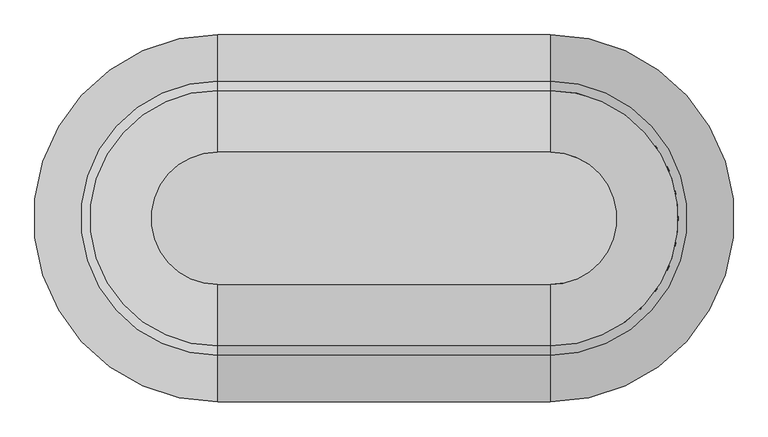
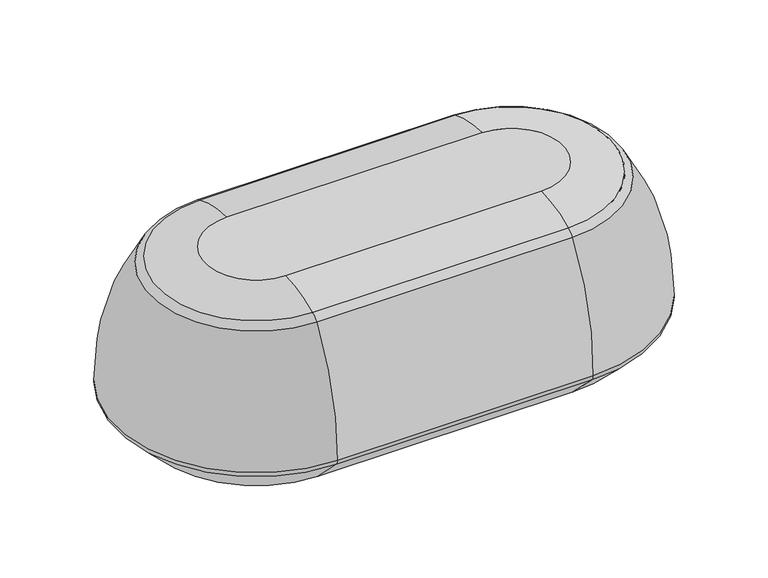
"""IFC4 building model written with IfcOpenShell, lengths in millimetres: furniture geometry, Pouf_Bensen_IlePouf_ILE005 : Pouf_Bensen_IlePouf_ILE005."""

from ifc_helpers import new_model, si_unit, point, frame, origin, place, context, project, spatial, polyline, circle_curve, ellipse_curve, trimmed, source, transform, mapped, element, save
from ifc_brep_helpers import plane_surface, cylinder_surface, revolved_surface, advanced_brep


def furniture_154e36b8(model_context):
    return source(origin(), model_context, "Body", "AdvancedBrep", [
        advanced_brep(
        [(-299.4891283, -119.2740078, 420.0), (299.4891283, -119.2740078, 420.0), (299.4891283, 119.2740078, 420.0), (-299.4891283, 119.2740078, 420.0), (299.4891283, -249.1399046, 0.0), (-299.4891283, -249.1399046, 0.0), (-299.4891283, 249.1399046, 0.0), (299.4891283, 249.1399046, 0.0), (-299.4891283, -324.6759513, 75.5360466), (299.4891283, -324.6759513, 75.5360466), (299.4891283, -330.5227805, 89.0138906), (-299.4891283, -330.5227805, 89.0138906), (299.4891283, -246.8894749, 381.8574548), (-299.4891283, -246.8894749, 381.8574548), (299.4891283, -230.1522762, 396.0506005), (-299.4891283, -230.1522762, 396.0506005), (299.4891283, 324.6759513, 75.5360466), (-299.4891283, 324.6759513, 75.5360466), (-299.4891283, 330.5227805, 89.0138906), (299.4891283, 330.5227805, 89.0138906), (-299.4891283, 246.8894749, 381.8574548), (299.4891283, 246.8894749, 381.8574548), (-299.4891283, 230.1522762, 396.0506005), (299.4891283, 230.1522762, 396.0506005)],
        [
            (0, 1),
            (1, 2, circle_curve(frame((299.4891283, 0.0, 420.0), z_axis=(0.0, 0.0, 1.0), x_axis=(0.0, -1.0, 0.0)), 119.2740078)),
            (2, 3),
            (3, 0, circle_curve(frame((-299.4891283, 0.0, 420.0), z_axis=(0.0, 0.0, 1.0), x_axis=(0.0, 1.0, 0.0)), 119.2740078)),
            (4, 5),
            (5, 6, circle_curve(frame((-299.4891283, 0.0, 0.0), z_axis=(0.0, 0.0, -1.0), x_axis=(0.0, 1.0, 0.0)), 249.1399046)),
            (6, 7),
            (7, 4, circle_curve(frame((299.4891283, 0.0, 0.0), z_axis=(0.0, 0.0, -1.0), x_axis=(0.0, -1.0, 0.0)), 249.1399046)),
            (8, 5),
            (4, 9),
            (9, 8),
            (9, 10, circle_curve(frame((299.4891283, -310.5338157, 89.6781823), z_axis=(-1.0, 0.0, 0.0), x_axis=(0.0, 1.0, 0.0)), 20.0)),
            (10, 11),
            (11, 8, circle_curve(frame((-299.4891283, -310.5338157, 89.6781823), z_axis=(1.0, 0.0, 0.0), x_axis=(0.0, 1.0, 0.0)), 20.0)),
            (10, 12, circle_curve(frame((299.4891283, 166.1919068, 105.5211689), z_axis=(-1.0, 0.0, 0.0), x_axis=(0.0, 1.0, 0.0)), 496.9889042)),
            (12, 13),
            (13, 11, circle_curve(frame((-299.4891283, 166.1919068, 105.5211689), z_axis=(1.0, 0.0, 0.0), x_axis=(0.0, 1.0, 0.0)), 496.9889042)),
            (12, 14, circle_curve(frame((299.4891283, -213.6427462, 359.6166134), z_axis=(-1.0, 0.0, 0.0), x_axis=(0.0, 1.0, 0.0)), 40.0)),
            (14, 15),
            (15, 13, circle_curve(frame((-299.4891283, -213.6427462, 359.6166134), z_axis=(1.0, 0.0, 0.0), x_axis=(0.0, 1.0, 0.0)), 40.0)),
            (14, 1, circle_curve(frame((299.4891283, -119.2740078, 151.3593575), z_axis=(-1.0, 0.0, 0.0), x_axis=(0.0, 1.0, 0.0)), 268.6406425)),
            (0, 15, circle_curve(frame((-299.4891283, -119.2740078, 151.3593575), z_axis=(1.0, 0.0, 0.0), x_axis=(0.0, 1.0, 0.0)), 268.6406425)),
            (16, 7),
            (6, 17),
            (17, 16),
            (17, 18, circle_curve(frame((-299.4891283, 310.5338157, 89.6781823), z_axis=(1.0, 0.0, 0.0), x_axis=(0.0, -1.0, 0.0)), 20.0)),
            (18, 19),
            (19, 16, circle_curve(frame((299.4891283, 310.5338157, 89.6781823), z_axis=(-1.0, 0.0, 0.0), x_axis=(0.0, -1.0, 0.0)), 20.0)),
            (18, 20, circle_curve(frame((-299.4891283, -166.1919068, 105.5211689), z_axis=(1.0, 0.0, 0.0), x_axis=(0.0, -1.0, 0.0)), 496.9889042)),
            (20, 21),
            (21, 19, circle_curve(frame((299.4891283, -166.1919068, 105.5211689), z_axis=(-1.0, 0.0, 0.0), x_axis=(0.0, -1.0, 0.0)), 496.9889042)),
            (20, 22, circle_curve(frame((-299.4891283, 213.6427462, 359.6166134), z_axis=(1.0, 0.0, 0.0), x_axis=(0.0, -1.0, 0.0)), 40.0)),
            (22, 23),
            (23, 21, circle_curve(frame((299.4891283, 213.6427462, 359.6166134), z_axis=(-1.0, 0.0, 0.0), x_axis=(0.0, -1.0, 0.0)), 40.0)),
            (22, 3, circle_curve(frame((-299.4891283, 119.2740078, 151.3593575), z_axis=(1.0, 0.0, 0.0), x_axis=(0.0, -1.0, 0.0)), 268.6406425)),
            (2, 23, circle_curve(frame((299.4891283, 119.2740078, 151.3593575), z_axis=(-1.0, 0.0, 0.0), x_axis=(0.0, -1.0, 0.0)), 268.6406425)),
            (8, 17, circle_curve(frame((-299.4891283, 0.0, 75.5360466), z_axis=(0.0, 0.0, -1.0), x_axis=(0.0, 1.0, 0.0)), 324.6759513)),
            (11, 18, circle_curve(frame((-299.4891283, 0.0, 89.0138906), z_axis=(0.0, 0.0, -1.0), x_axis=(0.0, 1.0, 0.0)), 330.5227805)),
            (13, 20, circle_curve(frame((-299.4891283, 0.0, 381.8574548), z_axis=(0.0, 0.0, -1.0), x_axis=(0.0, 1.0, 0.0)), 246.8894749)),
            (15, 22, circle_curve(frame((-299.4891283, 0.0, 396.0506005), z_axis=(0.0, 0.0, -1.0), x_axis=(0.0, 1.0, 0.0)), 230.1522762)),
            (16, 9, circle_curve(frame((299.4891283, 0.0, 75.5360466), z_axis=(0.0, 0.0, -1.0), x_axis=(0.0, -1.0, 0.0)), 324.6759513)),
            (19, 10, circle_curve(frame((299.4891283, 0.0, 89.0138906), z_axis=(0.0, 0.0, -1.0), x_axis=(0.0, -1.0, 0.0)), 330.5227805)),
            (21, 12, circle_curve(frame((299.4891283, 0.0, 381.8574548), z_axis=(0.0, 0.0, -1.0), x_axis=(0.0, -1.0, 0.0)), 246.8894749)),
            (23, 14, circle_curve(frame((299.4891283, 0.0, 396.0506005), z_axis=(0.0, 0.0, -1.0), x_axis=(0.0, -1.0, 0.0)), 230.1522762)),
        ],
        [
            plane_surface(frame((-499.4891283, 119.2740078, 420.0), z_axis=(0.0, 0.0, 1.0), x_axis=(-1.0, 0.0, 0.0))),
            plane_surface(frame((-499.4891283, 119.2740078, 0.0), z_axis=(0.0, 0.0, -1.0), x_axis=(1.0, 0.0, 0.0))),
            plane_surface(frame((-299.4891283, -249.1399046, 0.0), z_axis=(0.0, -0.7071067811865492, -0.7071067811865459), x_axis=(1.0, 0.0, 0.0))),
            cylinder_surface(frame((-299.4891283, -310.5338157, 89.6781823), z_axis=(-1.0, 0.0, 0.0), x_axis=(0.0, 1.0, 0.0)), 20.0),
            cylinder_surface(frame((-299.4891283, 166.1919068, 105.5211689), z_axis=(-1.0, 0.0, 0.0), x_axis=(0.0, 1.0, 0.0)), 496.9889042),
            cylinder_surface(frame((-299.4891283, -213.6427462, 359.6166134), z_axis=(-1.0, 0.0, 0.0), x_axis=(0.0, 1.0, 0.0)), 40.0),
            cylinder_surface(frame((-299.4891283, -119.2740078, 151.3593575), z_axis=(-1.0, 0.0, 0.0), x_axis=(0.0, 1.0, 0.0)), 268.6406425),
            plane_surface(frame((299.4891283, 249.1399046, 0.0), z_axis=(0.0, 0.7071067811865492, -0.7071067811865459), x_axis=(-1.0, 0.0, 0.0))),
            cylinder_surface(frame((299.4891283, 310.5338157, 89.6781823), z_axis=(1.0, 0.0, 0.0), x_axis=(0.0, -1.0, 0.0)), 20.0),
            cylinder_surface(frame((299.4891283, -166.1919068, 105.5211689), z_axis=(1.0, 0.0, 0.0), x_axis=(0.0, -1.0, 0.0)), 496.9889042),
            cylinder_surface(frame((299.4891283, 213.6427462, 359.6166134), z_axis=(1.0, 0.0, 0.0), x_axis=(0.0, -1.0, 0.0)), 40.0),
            cylinder_surface(frame((299.4891283, 119.2740078, 151.3593575), z_axis=(1.0, 0.0, 0.0), x_axis=(0.0, -1.0, 0.0)), 268.6406425),
            revolved_surface(polyline([(-299.4891283, 249.1399046, 0.0), (-299.4891283, 324.6759513, 75.5360466)]), (-299.4891283, 0.0, 0.0), (0.0, 0.0, 1.0)),
            revolved_surface(trimmed(ellipse_curve(frame((-299.4891283, 310.5338157, 89.6781823), z_axis=(1.0, 0.0, 0.0), x_axis=(0.0, -1.0, 0.0)), 20.0, 20.0), [point((-299.4891283, 324.6759513, 75.5360466))], [point((-299.4891283, 330.5227805, 89.0138906))], True, "CARTESIAN"), (-299.4891283, 0.0, 0.0), (0.0, 0.0, 1.0)),
            revolved_surface(trimmed(ellipse_curve(frame((-299.4891283, -166.1919068, 105.5211689), z_axis=(1.0, 0.0, 0.0), x_axis=(0.0, -1.0, 0.0)), 496.9889042, 496.9889042), [point((-299.4891283, 330.5227805, 89.0138906))], [point((-299.4891283, 246.8894749, 381.8574548))], True, "CARTESIAN"), (-299.4891283, 0.0, 0.0), (0.0, 0.0, 1.0)),
            revolved_surface(trimmed(ellipse_curve(frame((-299.4891283, 213.6427462, 359.6166134), z_axis=(1.0, 0.0, 0.0), x_axis=(0.0, -1.0, 0.0)), 40.0, 40.0), [point((-299.4891283, 246.8894749, 381.8574548))], [point((-299.4891283, 230.1522762, 396.0506005))], True, "CARTESIAN"), (-299.4891283, 0.0, 0.0), (0.0, 0.0, 1.0)),
            revolved_surface(trimmed(ellipse_curve(frame((-299.4891283, 119.2740078, 151.3593575), z_axis=(1.0, 0.0, 0.0), x_axis=(0.0, -1.0, 0.0)), 268.6406425, 268.6406425), [point((-299.4891283, 230.1522762, 396.0506005))], [point((-299.4891283, 119.2740078, 420.0))], True, "CARTESIAN"), (-299.4891283, 0.0, 0.0), (0.0, 0.0, 1.0)),
            revolved_surface(polyline([(299.4891283, -249.1399046, 0.0), (299.4891283, -324.6759513, 75.5360466)]), (299.4891283, 0.0, 0.0), (0.0, 0.0, 1.0)),
            revolved_surface(trimmed(ellipse_curve(frame((299.4891283, -310.5338157, 89.6781823), z_axis=(-1.0, 0.0, 0.0), x_axis=(0.0, 1.0, 0.0)), 20.0, 20.0), [point((299.4891283, -324.6759513, 75.5360466))], [point((299.4891283, -330.5227805, 89.0138906))], True, "CARTESIAN"), (299.4891283, 0.0, 0.0), (0.0, 0.0, 1.0)),
            revolved_surface(trimmed(ellipse_curve(frame((299.4891283, 166.1919068, 105.5211689), z_axis=(-1.0, 0.0, 0.0), x_axis=(0.0, 1.0, 0.0)), 496.9889042, 496.9889042), [point((299.4891283, -330.5227805, 89.0138906))], [point((299.4891283, -246.8894749, 381.8574548))], True, "CARTESIAN"), (299.4891283, 0.0, 0.0), (0.0, 0.0, 1.0)),
            revolved_surface(trimmed(ellipse_curve(frame((299.4891283, -213.6427462, 359.6166134), z_axis=(-1.0, 0.0, 0.0), x_axis=(0.0, 1.0, 0.0)), 40.0, 40.0), [point((299.4891283, -246.8894749, 381.8574548))], [point((299.4891283, -230.1522762, 396.0506005))], True, "CARTESIAN"), (299.4891283, 0.0, 0.0), (0.0, 0.0, 1.0)),
            revolved_surface(trimmed(ellipse_curve(frame((299.4891283, -119.2740078, 151.3593575), z_axis=(-1.0, 0.0, 0.0), x_axis=(0.0, 1.0, 0.0)), 268.6406425, 268.6406425), [point((299.4891283, -230.1522762, 396.0506005))], [point((299.4891283, -119.2740078, 420.0))], True, "CARTESIAN"), (299.4891283, 0.0, 0.0), (0.0, 0.0, 1.0)),
        ],
        [
            (0, [[1, 2, 3, 4]]),
            (1, [[5, 6, 7, 8]]),
            (2, [[9, -5, 10, 11]]),
            (3, [[-11, 12, 13, 14]]),
            (4, [[-13, 15, 16, 17]]),
            (5, [[-16, 18, 19, 20]]),
            (6, [[-19, 21, -1, 22]]),
            (7, [[23, -7, 24, 25]]),
            (8, [[-25, 26, 27, 28]]),
            (9, [[-27, 29, 30, 31]]),
            (10, [[-30, 32, 33, 34]]),
            (11, [[-33, 35, -3, 36]]),
            (12, [[-9, 37, -24, -6]]),
            (13, [[-14, 38, -26, -37]]),
            (14, [[-17, 39, -29, -38]]),
            (15, [[-20, 40, -32, -39]]),
            (16, [[-22, -4, -35, -40]]),
            (17, [[-10, -8, -23, 41]]),
            (18, [[-12, -41, -28, 42]]),
            (19, [[-15, -42, -31, 43]]),
            (20, [[-18, -43, -34, 44]]),
            (21, [[-21, -44, -36, -2]]),
        ],
    ),
    ])


if __name__ == "__main__":
    model = new_model("IFC4")
    model_context = context("Model", 3, world=origin())
    ifc_project = project(units=[si_unit("LENGTHUNIT", "METRE", prefix="MILLI")], contexts=[model_context])
    site = spatial("IfcSite", under=ifc_project)
    building = spatial("IfcBuilding", under=site)
    placement = place(None, origin())
    furniture_shape = furniture_154e36b8(model_context)
    element("IfcFurniture", 1, ObjectType="Pouf_Bensen_IlePouf_ILE005 : Pouf_Bensen_IlePouf_ILE005", at=placement, inside=building, context=model_context, shape_type="MappedRepresentation", body=[
        mapped(furniture_shape, transform((0.0, 0.0, 0.0), x_axis=(1.0, 0.0, 0.0), y_axis=(0.0, 1.0, 0.0), z_axis=(0.0, 0.0, 1.0))),
    ])
    save(model, "model.ifc")
